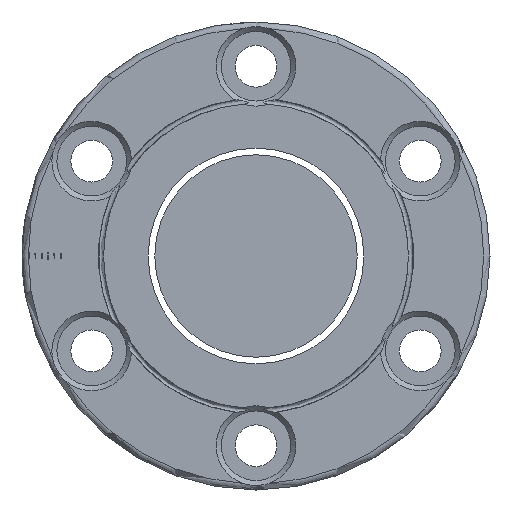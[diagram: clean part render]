
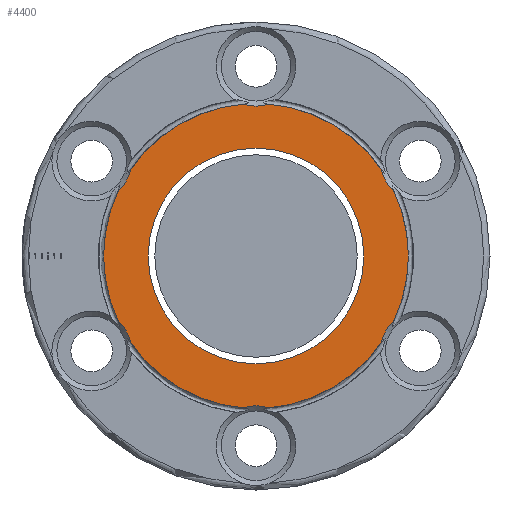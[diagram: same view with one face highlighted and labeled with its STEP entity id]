
A CAD part, left-side view. The second image highlights one B-rep face of the part: STEP entity #4400.
In plain terms, the highlighted planar face has unit normal (-1, 0, 0).
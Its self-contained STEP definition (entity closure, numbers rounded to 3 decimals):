
#48 = DIRECTION ( 'NONE',  ( 1., 0., 0. ) ) ;
#66 = AXIS2_PLACEMENT_3D ( 'NONE', #1446, #2740, #4186 ) ;
#76 = DIRECTION ( 'NONE',  ( 0., -1., 0. ) ) ;
#162 = CARTESIAN_POINT ( 'NONE',  ( -53., -1.978, -24.019 ) ) ;
#188 = CARTESIAN_POINT ( 'NONE',  ( -53., 0., 0. ) ) ;
#208 = DIRECTION ( 'NONE',  ( 0., -1., 0. ) ) ;
#211 = DIRECTION ( 'NONE',  ( -1., 0., 0. ) ) ;
#215 = ORIENTED_EDGE ( 'NONE', *, *, #3895, .T. ) ;
#231 = CIRCLE ( 'NONE', #2795, 6.3 ) ;
#268 = ORIENTED_EDGE ( 'NONE', *, *, #1003, .T. ) ;
#286 = CIRCLE ( 'NONE', #4228, 24.1 ) ;
#348 = CARTESIAN_POINT ( 'NONE',  ( -53., 17.05, 0. ) ) ;
#365 = CIRCLE ( 'NONE', #2872, 6.3 ) ;
#437 = DIRECTION ( 'NONE',  ( 1., 0., 0. ) ) ;
#440 = DIRECTION ( 'NONE',  ( 1., 0., 0. ) ) ;
#485 = VERTEX_POINT ( 'NONE', #3659 ) ;
#531 = VERTEX_POINT ( 'NONE', #3109 ) ;
#539 = CIRCLE ( 'NONE', #3476, 24.1 ) ;
#551 = ORIENTED_EDGE ( 'NONE', *, *, #4327, .T. ) ;
#570 = ORIENTED_EDGE ( 'NONE', *, *, #1853, .T. ) ;
#635 = CARTESIAN_POINT ( 'NONE',  ( -53., 0., 0. ) ) ;
#696 = DIRECTION ( 'NONE',  ( -1., 0., 0. ) ) ;
#701 = DIRECTION ( 'NONE',  ( -1., 0., 0. ) ) ;
#748 = ORIENTED_EDGE ( 'NONE', *, *, #1255, .T. ) ;
#773 = DIRECTION ( 'NONE',  ( 1., 0., 0. ) ) ;
#815 = EDGE_CURVE ( 'NONE', #3889, #2994, #3255, .T. ) ;
#880 = DIRECTION ( 'NONE',  ( 0., 0., 1. ) ) ;
#904 = CARTESIAN_POINT ( 'NONE',  ( -53., 0., 0. ) ) ;
#933 = EDGE_LOOP ( 'NONE', ( #1199 ) ) ;
#998 = AXIS2_PLACEMENT_3D ( 'NONE', #188, #4390, #3261 ) ;
#1003 = EDGE_CURVE ( 'NONE', #3093, #3889, #4185, .T. ) ;
#1013 = CARTESIAN_POINT ( 'NONE',  ( -53., -21.79, 10.296 ) ) ;
#1034 = AXIS2_PLACEMENT_3D ( 'NONE', #4226, #437, #76 ) ;
#1056 = CARTESIAN_POINT ( 'NONE',  ( -53., 21.79, -10.296 ) ) ;
#1061 = ORIENTED_EDGE ( 'NONE', *, *, #1765, .T. ) ;
#1082 = CIRCLE ( 'NONE', #2078, 6.3 ) ;
#1090 = CARTESIAN_POINT ( 'NONE',  ( -53., -19.812, -13.723 ) ) ;
#1199 = ORIENTED_EDGE ( 'NONE', *, *, #4079, .T. ) ;
#1255 = EDGE_CURVE ( 'NONE', #485, #3222, #4266, .T. ) ;
#1314 = AXIS2_PLACEMENT_3D ( 'NONE', #1818, #773, #3199 ) ;
#1353 = DIRECTION ( 'NONE',  ( -1., 0., 0. ) ) ;
#1435 = AXIS2_PLACEMENT_3D ( 'NONE', #904, #211, #880 ) ;
#1446 = CARTESIAN_POINT ( 'NONE',  ( -53., 37., 0. ) ) ;
#1677 = VERTEX_POINT ( 'NONE', #1013 ) ;
#1704 = EDGE_CURVE ( 'NONE', #2994, #4302, #539, .T. ) ;
#1723 = CARTESIAN_POINT ( 'NONE',  ( -53., 0., 0. ) ) ;
#1727 = FACE_OUTER_BOUND ( 'NONE', #2885, .T. ) ;
#1750 = VERTEX_POINT ( 'NONE', #348 ) ;
#1765 = EDGE_CURVE ( 'NONE', #2760, #485, #1893, .T. ) ;
#1818 = CARTESIAN_POINT ( 'NONE',  ( -53., 0., -30. ) ) ;
#1853 = EDGE_CURVE ( 'NONE', #2442, #3093, #2605, .T. ) ;
#1893 = CIRCLE ( 'NONE', #3907, 24.1 ) ;
#1950 = ORIENTED_EDGE ( 'NONE', *, *, #3748, .T. ) ;
#1996 = DIRECTION ( 'NONE',  ( -1., 0., 0. ) ) ;
#2040 = DIRECTION ( 'NONE',  ( 0., 0., 1. ) ) ;
#2061 = DIRECTION ( 'NONE',  ( 0., 0., 1. ) ) ;
#2064 = CARTESIAN_POINT ( 'NONE',  ( -53., -25.981, 15. ) ) ;
#2066 = AXIS2_PLACEMENT_3D ( 'NONE', #2819, #3477, #2099 ) ;
#2078 = AXIS2_PLACEMENT_3D ( 'NONE', #2064, #2115, #2399 ) ;
#2099 = DIRECTION ( 'NONE',  ( 0., 1., 0. ) ) ;
#2115 = DIRECTION ( 'NONE',  ( 1., 0., 0. ) ) ;
#2254 = AXIS2_PLACEMENT_3D ( 'NONE', #3760, #1353, #4138 ) ;
#2399 = DIRECTION ( 'NONE',  ( 0., -1., 0. ) ) ;
#2442 = VERTEX_POINT ( 'NONE', #1056 ) ;
#2446 = FACE_BOUND ( 'NONE', #933, .T. ) ;
#2529 = VERTEX_POINT ( 'NONE', #3660 ) ;
#2582 = CIRCLE ( 'NONE', #998, 24.1 ) ;
#2605 = CIRCLE ( 'NONE', #1034, 6.3 ) ;
#2723 = CARTESIAN_POINT ( 'NONE',  ( -53., 1.978, -24.019 ) ) ;
#2740 = DIRECTION ( 'NONE',  ( -1., 0., 0. ) ) ;
#2760 = VERTEX_POINT ( 'NONE', #3146 ) ;
#2788 = PLANE ( 'NONE',  #66 ) ;
#2795 = AXIS2_PLACEMENT_3D ( 'NONE', #3514, #440, #4208 ) ;
#2819 = CARTESIAN_POINT ( 'NONE',  ( -53., 0., 0. ) ) ;
#2872 = AXIS2_PLACEMENT_3D ( 'NONE', #3632, #48, #4130 ) ;
#2885 = EDGE_LOOP ( 'NONE', ( #3242, #1061, #748, #215, #3530, #551, #570, #268, #3584, #3732, #2953, #1950 ) ) ;
#2953 = ORIENTED_EDGE ( 'NONE', *, *, #3648, .T. ) ;
#2994 = VERTEX_POINT ( 'NONE', #162 ) ;
#3093 = VERTEX_POINT ( 'NONE', #3979 ) ;
#3109 = CARTESIAN_POINT ( 'NONE',  ( -53., -21.79, -10.296 ) ) ;
#3132 = DIRECTION ( 'NONE',  ( 0., 0., 1. ) ) ;
#3146 = CARTESIAN_POINT ( 'NONE',  ( -53., -19.812, 13.723 ) ) ;
#3199 = DIRECTION ( 'NONE',  ( 0., -1., 0. ) ) ;
#3222 = VERTEX_POINT ( 'NONE', #3257 ) ;
#3242 = ORIENTED_EDGE ( 'NONE', *, *, #3421, .T. ) ;
#3255 = CIRCLE ( 'NONE', #1314, 6.3 ) ;
#3257 = CARTESIAN_POINT ( 'NONE',  ( -53., 1.978, 24.019 ) ) ;
#3261 = DIRECTION ( 'NONE',  ( 0., 0., 1. ) ) ;
#3279 = CARTESIAN_POINT ( 'NONE',  ( -53., 0., 30. ) ) ;
#3371 = CIRCLE ( 'NONE', #1435, 24.1 ) ;
#3399 = CARTESIAN_POINT ( 'NONE',  ( -53., 19.812, 13.723 ) ) ;
#3421 = EDGE_CURVE ( 'NONE', #1677, #2760, #1082, .T. ) ;
#3437 = CIRCLE ( 'NONE', #2066, 17.05 ) ;
#3442 = VERTEX_POINT ( 'NONE', #3399 ) ;
#3476 = AXIS2_PLACEMENT_3D ( 'NONE', #635, #1996, #2040 ) ;
#3477 = DIRECTION ( 'NONE',  ( 1., 0., 0. ) ) ;
#3506 = EDGE_CURVE ( 'NONE', #3442, #2529, #231, .T. ) ;
#3514 = CARTESIAN_POINT ( 'NONE',  ( -53., 25.981, 15. ) ) ;
#3530 = ORIENTED_EDGE ( 'NONE', *, *, #3506, .T. ) ;
#3584 = ORIENTED_EDGE ( 'NONE', *, *, #815, .T. ) ;
#3624 = AXIS2_PLACEMENT_3D ( 'NONE', #3279, #3997, #208 ) ;
#3632 = CARTESIAN_POINT ( 'NONE',  ( -53., -25.981, -15. ) ) ;
#3648 = EDGE_CURVE ( 'NONE', #4302, #531, #365, .T. ) ;
#3659 = CARTESIAN_POINT ( 'NONE',  ( -53., -1.978, 24.019 ) ) ;
#3660 = CARTESIAN_POINT ( 'NONE',  ( -53., 21.79, 10.296 ) ) ;
#3732 = ORIENTED_EDGE ( 'NONE', *, *, #1704, .T. ) ;
#3748 = EDGE_CURVE ( 'NONE', #531, #1677, #3371, .T. ) ;
#3760 = CARTESIAN_POINT ( 'NONE',  ( -53., 0., 0. ) ) ;
#3831 = CARTESIAN_POINT ( 'NONE',  ( -53., 0., 0. ) ) ;
#3889 = VERTEX_POINT ( 'NONE', #2723 ) ;
#3895 = EDGE_CURVE ( 'NONE', #3222, #3442, #2582, .T. ) ;
#3907 = AXIS2_PLACEMENT_3D ( 'NONE', #1723, #696, #2061 ) ;
#3979 = CARTESIAN_POINT ( 'NONE',  ( -53., 19.812, -13.723 ) ) ;
#3997 = DIRECTION ( 'NONE',  ( 1., 0., 0. ) ) ;
#4079 = EDGE_CURVE ( 'NONE', #1750, #1750, #3437, .T. ) ;
#4130 = DIRECTION ( 'NONE',  ( 0., -1., 0. ) ) ;
#4138 = DIRECTION ( 'NONE',  ( 0., 0., 1. ) ) ;
#4185 = CIRCLE ( 'NONE', #2254, 24.1 ) ;
#4186 = DIRECTION ( 'NONE',  ( 0., -1., 0. ) ) ;
#4208 = DIRECTION ( 'NONE',  ( 0., -1., 0. ) ) ;
#4226 = CARTESIAN_POINT ( 'NONE',  ( -53., 25.981, -15. ) ) ;
#4228 = AXIS2_PLACEMENT_3D ( 'NONE', #3831, #701, #3132 ) ;
#4266 = CIRCLE ( 'NONE', #3624, 6.3 ) ;
#4302 = VERTEX_POINT ( 'NONE', #1090 ) ;
#4327 = EDGE_CURVE ( 'NONE', #2529, #2442, #286, .T. ) ;
#4390 = DIRECTION ( 'NONE',  ( -1., 0., 0. ) ) ;
#4400 = ADVANCED_FACE ( 'NONE', ( #2446, #1727 ), #2788, .T. ) ;
